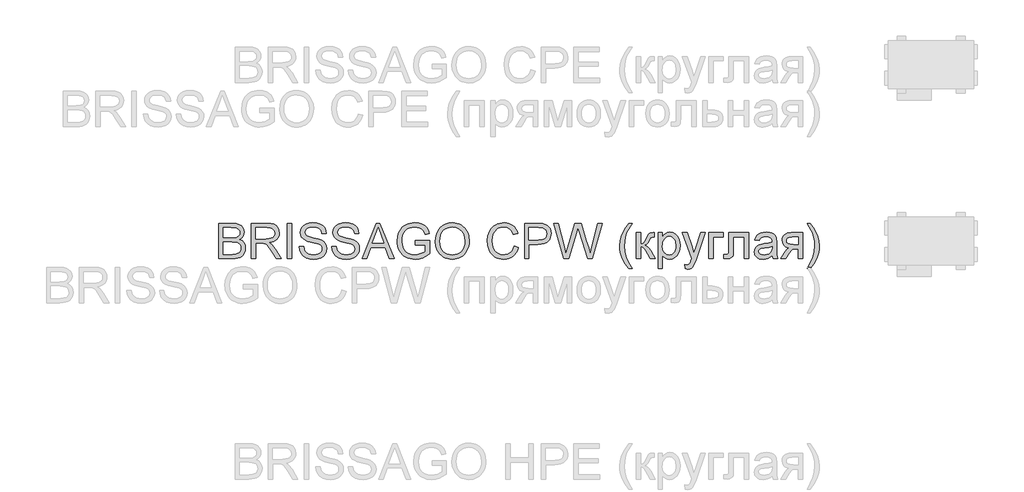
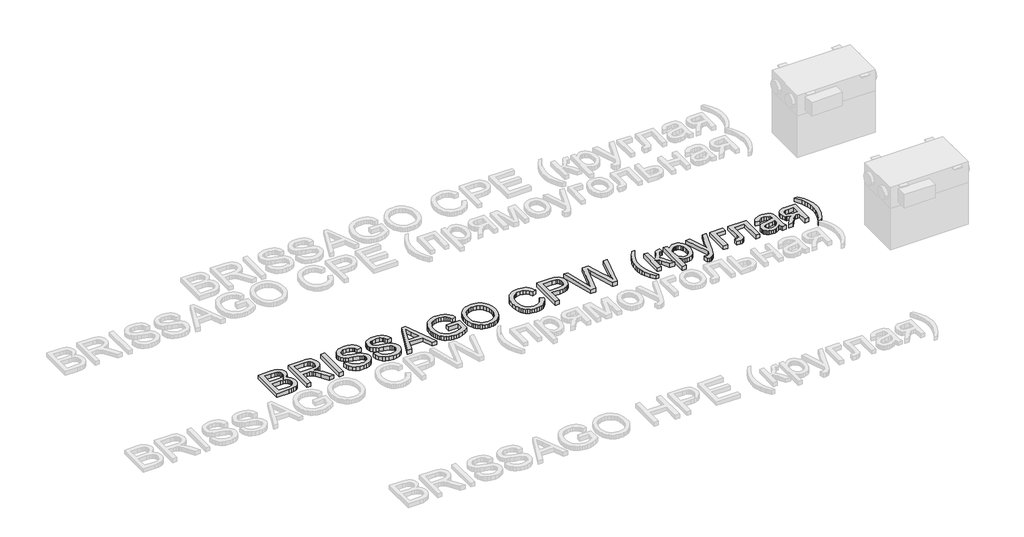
# One storey, part 19 of 28: 1 proxy.
"""IFC4 building model written with IfcOpenShell, lengths in millimetres."""

from ifc_helpers import new_model, si_unit, origin, origin_with_axes, place, context, project, spatial, polyline, outline, extrude, element, save

model = new_model("IFC4")

# Units and contexts
model_context = context("Model", 3, world=origin())
ifc_project = project(units=[si_unit("LENGTHUNIT", "METRE", prefix="MILLI")], contexts=[model_context])

# Site, building, storey
site = spatial("IfcSite", under=ifc_project)
building = spatial("IfcBuilding", under=site)
storey = spatial("IfcBuildingStorey", under=building, Name="Уровень 1", Elevation=0.0)

# Proxy
placement = place(None, origin())
element("IfcBuildingElementProxy", 1, Name="400 мм Arial", ObjectType="400 мм Arial", at=placement, inside=storey, context=model_context, shape_type="SweptSolid", body=[
    extrude(outline(polyline([(-28753.3516036, 8271.2907411), (-28753.3516036, 8673.1159817), (-28600.018388, 8673.1159817), (-28557.8468487, 8670.160663), (-28524.9214101, 8661.294707), (-28499.6847052, 8646.2973843), (-28480.5793669, 8624.9479658), (-28468.5496257, 8599.8338883), (-28464.539712, 8573.5425884), (-28467.9119636, 8549.3482158), (-28478.0287184, 8526.6008458), (-28494.963553, 8506.6984299), (-28518.7900435, 8491.0389196), (-28490.3282398, 8476.176487), (-28469.2976524, 8453.564007), (-28456.311418, 8424.6975331), (-28451.9826732, 8391.0731188), (-28454.9379919, 8363.0527735), (-28463.803948, 8337.0680419), (-28477.0354371, 8314.9705967), (-28493.0873548, 8298.6121107), (-28512.7445161, 8286.7663104), (-28536.7917358, 8278.2069227), (-28566.013829, 8273.0197865), (-28601.1956104, 8271.2907411), (-28753.3516036, 8271.2907411)]), holes=[polyline([(-28703.1234486, 8509.8744777), (-28611.3982044, 8509.8744777), (-28557.8345859, 8514.1909598), (-28539.0848669, 8521.6344389), (-28525.6081232, 8532.7812633), (-28517.4779311, 8547.4597549), (-28514.767867, 8565.4982354), (-28517.2939901, 8583.0094184), (-28524.8723592, 8598.2642585), (-28537.1596178, 8610.1713724), (-28553.8124094, 8617.6393769), (-28579.3679454, 8621.5757142), (-28618.3634369, 8622.8878267), (-28703.1234486, 8622.8878267), (-28703.1234486, 8509.8744777)]), polyline([(-28703.1234486, 8321.5188962), (-28600.1164899, 8321.5188962), (-28562.8377811, 8323.4809335), (-28531.2980313, 8334.4192915), (-28519.7220112, 8343.8493333), (-28510.402334, 8356.7374659), (-28504.2587047, 8372.5073407), (-28502.2108283, 8390.5826094), (-28504.614324, 8411.5764086), (-28511.8248111, 8429.6271519), (-28524.418638, 8443.7415577), (-28542.9721533, 8452.9263449), (-28569.2511905, 8457.9663282), (-28605.0215832, 8459.6463227), (-28703.1234486, 8459.6463227), (-28703.1234486, 8321.5188962)])]), origin_with_axes(), (0.0, 0.0, 1.0), 50.0),
    extrude(outline(polyline([(-28382.91896, 8271.2907411), (-28382.91896, 8673.1159817), (-28209.7691676, 8673.1159817), (-28163.2320952, 8670.4059177), (-28129.3746889, 8662.2757256), (-28104.6284933, 8647.2661402), (-28085.4250532, 8623.9178963), (-28073.1010064, 8594.9655832), (-28068.9929907, 8563.1437906), (-28070.694445, 8542.5056107), (-28075.7988077, 8523.559688), (-28084.3060788, 8506.3060224), (-28096.2162584, 8490.744614), (-28111.6826306, 8477.3721035), (-28130.8584796, 8466.6851315), (-28153.7438054, 8458.6836981), (-28180.3386079, 8453.3678033), (-28151.7909651, 8431.8834948), (-28111.078691, 8380.1838117), (-28044.0751169, 8271.2907411), (-28102.4457268, 8271.2907411), (-28154.7340211, 8354.5792249), (-28192.5032393, 8409.7124732), (-28206.5440687, 8425.7889164), (-28219.0397938, 8435.7585185), (-28242.9275981, 8445.3234503), (-28272.0638521, 8447.0892839), (-28332.6908049, 8447.0892839), (-28332.6908049, 8271.2907411), (-28382.91896, 8271.2907411)]), holes=[polyline([(-28332.6908049, 8497.317439), (-28220.2660672, 8497.317439), (-28187.9782907, 8499.0955353), (-28162.9255268, 8504.4298242), (-28144.0654432, 8513.675925), (-28130.3557075, 8527.189457), (-28122.0047862, 8543.5356803), (-28119.2211458, 8561.2798552), (-28124.5309093, 8585.7807961), (-28140.4601997, 8605.5237965), (-28152.6217653, 8613.1205597), (-28167.8674083, 8618.5468191), (-28207.6109265, 8622.8878267), (-28332.6908049, 8622.8878267), (-28332.6908049, 8497.317439)])]), origin_with_axes(), (0.0, 0.0, 1.0), 50.0),
    extrude(outline(polyline([(-27974.8152, 8271.2907411), (-27974.8152, 8673.1159817), (-27924.5870449, 8673.1159817), (-27924.5870449, 8271.2907411), (-27974.8152, 8271.2907411)])), origin_with_axes(), (0.0, 0.0, 1.0), 50.0),
    extrude(outline(polyline([(-27842.9662929, 8409.4181676), (-27792.7381378, 8409.4181676), (-27786.9746532, 8381.5449751), (-27776.55133, 8359.1409616), (-27760.2909459, 8341.3599985), (-27737.0162783, 8327.3559572), (-27708.5667373, 8318.2692719), (-27676.7817329, 8315.2403768), (-27648.7981758, 8317.5335079), (-27624.297235, 8324.4129012), (-27604.44387, 8335.3022083), (-27590.4030405, 8349.6250806), (-27582.0521192, 8366.0694058), (-27579.2684788, 8383.3230714), (-27581.3531434, 8400.1352786), (-27587.6071373, 8414.6666174), (-27600.3113289, 8427.0642406), (-27621.7465865, 8437.4753011), (-27694.8815271, 8456.6542158), (-27742.8901275, 8469.3461446), (-27773.6082741, 8481.4249368), (-27798.611987, 8498.3229831), (-27816.3316365, 8518.8017475), (-27826.8898497, 8542.4197716), (-27830.4092541, 8568.735597), (-27826.0559839, 8598.1538939), (-27812.996173, 8625.585628), (-27791.5731782, 8648.8357701), (-27762.1303558, 8665.7092909), (-27726.7891588, 8675.9731986), (-27687.67104, 8679.3945011), (-27645.2910342, 8675.813783), (-27608.208529, 8665.0716288), (-27577.7478998, 8647.3887675), (-27555.2335217, 8622.9859285), (-27540.9842258, 8593.3836907), (-27535.3188431, 8560.1026328), (-27585.5469981, 8560.1026328), (-27594.7685735, 8590.0727527), (-27603.1317575, 8601.9308157), (-27613.9965391, 8611.704214), (-27644.0402354, 8624.800813), (-27685.7090027, 8629.1663461), (-27728.3587887, 8624.849864), (-27744.6620924, 8619.4542614), (-27757.61767, 8611.9004177), (-27774.5402418, 8592.8441304), (-27780.1810991, 8570.207125), (-27776.183448, 8550.9055829), (-27764.190495, 8535.3809627), (-27735.8390559, 8521.4995488), (-27682.1773355, 8507.3238292), (-27626.7988325, 8493.8593482), (-27593.2970455, 8482.1116498), (-27564.6635636, 8463.8892284), (-27544.6875712, 8441.3993757), (-27532.9521356, 8414.8873466), (-27529.0403237, 8384.5983957), (-27533.5407468, 8353.6349944), (-27547.042016, 8324.5110031), (-27568.9923084, 8299.4459765), (-27598.8398009, 8280.6594693), (-27634.7328209, 8268.9240336), (-27674.8196956, 8265.0122218), (-27724.0300439, 8269.230602), (-27764.5338515, 8281.8857426), (-27796.7971025, 8303.0266946), (-27821.2857807, 8332.7025089), (-27837.0066046, 8368.8530463), (-27842.9662929, 8409.4181676)])), origin_with_axes(), (0.0, 0.0, 1.0), 50.0),
    extrude(outline(polyline([(-27472.5336492, 8409.4181676), (-27422.3054942, 8409.4181676), (-27416.5420096, 8381.5449751), (-27406.1186864, 8359.1409616), (-27389.8583022, 8341.3599985), (-27366.5836346, 8327.3559572), (-27338.1340937, 8318.2692719), (-27306.3490893, 8315.2403768), (-27278.3655322, 8317.5335079), (-27253.8645913, 8324.4129012), (-27234.0112263, 8335.3022083), (-27219.9703968, 8349.6250806), (-27211.6194755, 8366.0694058), (-27208.8358351, 8383.3230714), (-27210.9204997, 8400.1352786), (-27217.1744936, 8414.6666174), (-27229.8786852, 8427.0642406), (-27251.3139428, 8437.4753011), (-27324.4488834, 8456.6542158), (-27372.4574838, 8469.3461446), (-27403.1756304, 8481.4249368), (-27428.1793433, 8498.3229831), (-27445.8989928, 8518.8017475), (-27456.457206, 8542.4197716), (-27459.9766105, 8568.735597), (-27455.6233402, 8598.1538939), (-27442.5635294, 8625.585628), (-27421.1405345, 8648.8357701), (-27391.6977122, 8665.7092909), (-27356.3565151, 8675.9731986), (-27317.2383963, 8679.3945011), (-27274.8583905, 8675.813783), (-27237.7758854, 8665.0716288), (-27207.3152562, 8647.3887675), (-27184.8008781, 8622.9859285), (-27170.5515821, 8593.3836907), (-27164.8861994, 8560.1026328), (-27215.1143545, 8560.1026328), (-27224.3359298, 8590.0727527), (-27232.6991138, 8601.9308157), (-27243.5638954, 8611.704214), (-27273.6075917, 8624.800813), (-27315.276359, 8629.1663461), (-27357.926145, 8624.849864), (-27374.2294487, 8619.4542614), (-27387.1850263, 8611.9004177), (-27404.1075981, 8592.8441304), (-27409.7484554, 8570.207125), (-27405.7508044, 8550.9055829), (-27393.7578513, 8535.3809627), (-27365.4064122, 8521.4995488), (-27311.7446919, 8507.3238292), (-27256.3661889, 8493.8593482), (-27222.8644018, 8482.1116498), (-27194.2309199, 8463.8892284), (-27174.2549275, 8441.3993757), (-27162.5194919, 8414.8873466), (-27158.60768, 8384.5983957), (-27163.1081031, 8353.6349944), (-27176.6093723, 8324.5110031), (-27198.5596647, 8299.4459765), (-27228.4071572, 8280.6594693), (-27264.3001772, 8268.9240336), (-27304.387052, 8265.0122218), (-27353.5974002, 8269.230602), (-27394.1012079, 8281.8857426), (-27426.3644588, 8303.0266946), (-27450.853137, 8332.7025089), (-27466.5739609, 8368.8530463), (-27472.5336492, 8409.4181676)])), origin_with_axes(), (0.0, 0.0, 1.0), 50.0),
    extrude(outline(polyline([(-27130.0600372, 8271.2907411), (-26969.6634873, 8673.1159817), (-26926.891074, 8673.1159817), (-26766.4945241, 8271.2907411), (-26819.5676333, 8271.2907411), (-26865.5774081, 8396.8611288), (-27031.075255, 8396.8611288), (-27076.986928, 8271.2907411), (-27130.0600372, 8271.2907411)]), holes=[polyline([(-27012.6321043, 8447.0892839), (-26883.9224569, 8447.0892839), (-26920.1220453, 8545.8778623), (-26948.2772806, 8622.8878267), (-26973.2932563, 8554.5108265), (-27012.6321043, 8447.0892839)])]), origin_with_axes(), (0.0, 0.0, 1.0), 50.0),
    extrude(outline(polyline([(-26524.4772222, 8428.2537258), (-26524.4772222, 8478.4818808), (-26361.2357182, 8478.4818808), (-26361.2357182, 8328.2879249), (-26400.90566, 8300.6967753), (-26441.8264006, 8280.9047239), (-26483.8998381, 8268.9853473), (-26527.0278707, 8265.0122218), (-26555.8790162, 8266.5910487), (-26583.3751296, 8271.3275293), (-26609.5162111, 8279.2216638), (-26634.3022605, 8290.2734521), (-26656.9331346, 8304.3173473), (-26676.6086899, 8321.1878024), (-26693.3289266, 8340.8848176), (-26707.0938446, 8363.4083927), (-26717.8451959, 8388.0380923), (-26725.5247326, 8414.0534807), (-26730.1324545, 8441.454558), (-26731.6683619, 8470.2413241), (-26725.549258, 8526.8338377), (-26717.9003782, 8553.6493695), (-26707.1919465, 8579.4777512), (-26693.6140352, 8603.1846801), (-26677.3567167, 8623.6358534), (-26658.4199909, 8640.831271), (-26636.8038581, 8654.7709329), (-26612.9773675, 8665.543744), (-26587.4095688, 8673.2386091), (-26560.1004621, 8677.8555281), (-26531.0500472, 8679.3945011), (-26489.6755854, 8675.8260458), (-26452.470453, 8665.1206797), (-26421.1391697, 8648.0509551), (-26397.3862556, 8625.3894242), (-26379.813759, 8596.0447038), (-26367.0237283, 8558.9254104), (-26413.3278087, 8545.8778623), (-26423.6652928, 8572.3531033), (-26436.2345943, 8592.3290956), (-26452.8628605, 8607.3877319), (-26475.3772386, 8619.1109048), (-26502.2203615, 8626.6524857), (-26531.8348621, 8629.1663461), (-26566.5016088, 8626.456282), (-26596.1406348, 8618.3260899), (-26620.6415757, 8605.7935766), (-26639.8940668, 8589.876549), (-26654.6706603, 8571.3966101), (-26665.7439083, 8551.1753631), (-26677.5161322, 8513.2589921), (-26681.4402068, 8472.3014633), (-26676.7190545, 8424.2683375), (-26662.5555977, 8384.7455485), (-26639.379032, 8354.0151391), (-26607.6185531, 8332.3591523), (-26570.4502089, 8319.5200707), (-26531.0500472, 8315.2403768), (-26496.2606732, 8318.4654757), (-26462.3296905, 8328.1407721), (-26432.8623427, 8341.4703631), (-26411.4638733, 8355.6583454), (-26411.4638733, 8428.2537258), (-26524.4772222, 8428.2537258)])), origin_with_axes(), (0.0, 0.0, 1.0), 50.0),
    extrude(outline(polyline([(-26298.4505244, 8466.9058607), (-26295.1027982, 8514.0376757), (-26285.0596197, 8555.7616253), (-26268.3209889, 8592.0777096), (-26244.8869059, 8622.9859285), (-26216.1614534, 8647.664679), (-26183.5487145, 8665.292358), (-26147.0486892, 8675.8689653), (-26106.6613775, 8679.3945011), (-26079.6281823, 8677.7390321), (-26053.9561504, 8672.7726252), (-26029.6452818, 8664.4952803), (-26006.6955767, 8652.9069975), (-25985.7508285, 8638.3572646), (-25967.4548306, 8621.1955695), (-25951.807583, 8601.4219122), (-25938.8090859, 8579.0362928), (-25928.5942291, 8554.5476147), (-25921.2979029, 8528.4647812), (-25915.4608419, 8471.5166484), (-25916.9967492, 8441.8592282), (-25921.6044712, 8413.8082261), (-25929.2840079, 8387.363642), (-25940.0353592, 8362.5254759), (-25953.6040734, 8339.9497842), (-25969.7356989, 8320.2926229), (-25988.4302357, 8303.5539921), (-26009.6876836, 8289.7338918), (-26032.6711113, 8278.9181612), (-26056.5435871, 8271.1926393), (-26081.305111, 8266.5573261), (-26106.9556831, 8265.0122218), (-26134.4609936, 8266.7198074), (-26160.4702507, 8271.8425641), (-26184.9834543, 8280.3804921), (-26208.0006045, 8292.3335913), (-26228.9208273, 8307.2389434), (-26247.1432488, 8324.6336304), (-26262.667869, 8344.5176523), (-26275.4946879, 8366.891009), (-26292.7115652, 8415.512746), (-26298.4505244, 8466.9058607)]), holes=[polyline([(-26248.2223693, 8466.4153514), (-26245.7115747, 8433.1158995), (-26238.1791908, 8403.5565811), (-26225.6252177, 8377.7373964), (-26208.0496554, 8355.6583454), (-26186.6849085, 8337.9754841), (-26162.7633818, 8325.344869), (-26136.2850752, 8317.7664999), (-26107.2499887, 8315.2403768), (-26077.7182616, 8317.7910253), (-26050.9272553, 8325.4429708), (-26026.8769698, 8338.1962133), (-26005.5674053, 8356.0507528), (-25988.1206016, 8378.5957878), (-25975.6585991, 8405.4205166), (-25968.1813975, 8436.5249393), (-25965.688997, 8471.9090558), (-25969.9564281, 8516.3737263), (-25982.7587216, 8554.8051321), (-26003.7647835, 8586.2345172), (-26032.6435201, 8609.6931258), (-26067.481945, 8624.298041), (-26106.3670719, 8629.1663461), (-26134.3935486, 8626.8210983), (-26160.3966743, 8619.7853552), (-26184.376449, 8608.0591166), (-26206.3328728, 8591.6423825), (-26224.6595275, 8569.7442068), (-26237.7499951, 8541.573643), (-26245.6042757, 8507.1306912), (-26248.2223693, 8466.4153514)])]), origin_with_axes(), (0.0, 0.0, 1.0), 50.0),
    extrude(outline(polyline([(-25406.9007718, 8414.1270571), (-25356.6726167, 8401.1776109), (-25366.6115619, 8369.9413638), (-25379.8491824, 8342.6475855), (-25396.3854781, 8319.2962758), (-25416.220449, 8299.8874349), (-25438.9065054, 8284.6295292), (-25463.9960574, 8273.731025), (-25491.4891052, 8267.1919226), (-25521.3856487, 8265.0122218), (-25552.0148905, 8266.6615594), (-25579.645894, 8271.6095722), (-25604.2786592, 8279.8562603), (-25625.9131862, 8291.4016235), (-25644.8468463, 8306.0739838), (-25661.3770106, 8323.7016627), (-25675.5036792, 8344.2846604), (-25687.2268521, 8367.8229767), (-25703.0089897, 8419.694338), (-25708.2697022, 8475.2445193), (-25702.3222766, 8533.8358584), (-25694.8879946, 8560.1332897), (-25684.4799999, 8584.4318954), (-25671.3312842, 8606.3300712), (-25655.6748396, 8625.4262124), (-25637.5106661, 8641.7203191), (-25616.8387637, 8655.2123913), (-25594.3611738, 8665.7920644), (-25570.7799379, 8673.3489737), (-25520.3065282, 8679.3945011), (-25491.57801, 8677.4385952), (-25465.2345935, 8671.5708774), (-25441.2762785, 8661.7913477), (-25419.7030652, 8648.1000061), (-25400.8705727, 8630.8586032), (-25385.1344204, 8610.4288898), (-25372.4946082, 8586.8108657), (-25362.9511361, 8560.004531), (-25413.1792912, 8548.0361034), (-25430.5923723, 8584.6648874), (-25454.3820746, 8609.7912276), (-25484.8427038, 8624.3225664), (-25522.2685655, 8629.1663461), (-25565.4088608, 8623.7952689), (-25584.0911348, 8617.0814225), (-25600.8481596, 8607.6820375), (-25627.7403335, 8582.5189091), (-25645.2392537, 8549.9981407), (-25654.8409738, 8513.2344666), (-25658.0415471, 8475.3426211), (-25654.2523626, 8428.9404388), (-25642.8848089, 8388.8167759), (-25623.5096905, 8356.504474), (-25595.6978117, 8333.5363747), (-25562.3554402, 8319.8143763), (-25526.3888438, 8315.2403768), (-25504.5519817, 8316.7977439), (-25484.4625591, 8321.4698453), (-25466.1205759, 8329.2566808), (-25449.5260323, 8340.1582506), (-25435.0713356, 8354.1255037), (-25423.1488932, 8371.1093892), (-25413.7587053, 8391.109907), (-25406.9007718, 8414.1270571)])), origin_with_axes(), (0.0, 0.0, 1.0), 50.0),
    extrude(outline(polyline([(-25287.6089035, 8271.2907411), (-25287.6089035, 8673.1159817), (-25138.6902718, 8673.1159817), (-25078.6519302, 8669.290009), (-25051.8823837, 8662.1408356), (-25029.8462522, 8650.5035018), (-25012.1020773, 8633.8507101), (-24998.2084006, 8611.6551631), (-24989.2320799, 8585.4742278), (-24986.239973, 8556.8652713), (-24988.2602583, 8532.1987835), (-24994.3211142, 8509.5065958), (-25004.4225406, 8488.7887081), (-25018.5645377, 8470.0451204), (-25037.97951, 8454.5082375), (-25063.8998622, 8443.410464), (-25096.3255944, 8436.7517998), (-25135.2567065, 8434.5322451), (-25237.3807484, 8434.5322451), (-25237.3807484, 8271.2907411), (-25287.6089035, 8271.2907411)]), holes=[polyline([(-25237.3807484, 8484.7604002), (-25132.3136506, 8484.7604002), (-25087.7754037, 8489.3711879), (-25071.171663, 8495.1346725), (-25058.3448441, 8503.2035509), (-25048.7737808, 8513.3632253), (-25041.9373071, 8525.3990979), (-25036.4681281, 8555.0994377), (-25039.6932269, 8577.6628667), (-25049.3685234, 8596.6946286), (-25064.2922697, 8611.017501), (-25083.2627179, 8619.4542614), (-25133.490873, 8622.8878267), (-25237.3807484, 8622.8878267), (-25237.3807484, 8484.7604002)])]), origin_with_axes(), (0.0, 0.0, 1.0), 50.0),
    extrude(outline(polyline([(-24845.2675925, 8271.2907411), (-24954.8473761, 8673.1159817), (-24903.0495912, 8673.1159817), (-24839.4795824, 8409.0257601), (-24819.8592093, 8327.50311), (-24798.8654101, 8399.6079811), (-24719.2066955, 8673.1159817), (-24644.5511759, 8673.1159817), (-24586.6710753, 8474.8521118), (-24561.8758289, 8401.2757128), (-24543.6043564, 8327.50311), (-24524.5725945, 8406.6713154), (-24460.4139746, 8673.1159817), (-24408.6161897, 8673.1159817), (-24518.2940752, 8271.2907411), (-24571.9557955, 8271.2907411), (-24668.2918273, 8581.2926357), (-24681.7317829, 8624.5555584), (-24696.8394702, 8572.4634679), (-24784.6406397, 8271.2907411), (-24845.2675925, 8271.2907411)])), origin_with_axes(), (0.0, 0.0, 1.0), 50.0),
    extrude(outline(polyline([(-24107.2472592, 8158.2773922), (-24146.1691743, 8212.8956058), (-24178.5673153, 8276.0977325), (-24191.3144265, 8310.1513426), (-24200.4195059, 8344.8180892), (-24205.8825535, 8380.0979726), (-24207.7035694, 8415.9909926), (-24202.2589158, 8478.4083044), (-24185.9249552, 8538.127815), (-24153.5022887, 8605.7690512), (-24107.2472592, 8673.1159817), (-24069.5761429, 8673.1159817), (-24116.5669364, 8593.5553689), (-24132.6065914, 8555.7861507), (-24144.8202737, 8516.4473027), (-24154.3116291, 8466.1946222), (-24157.4754143, 8415.696687), (-24151.9817098, 8351.3050751), (-24135.5005964, 8286.9379887), (-24108.0320741, 8222.5954277), (-24069.5761429, 8158.2773922), (-24107.2472592, 8158.2773922)])), origin_with_axes(), (0.0, 0.0, 1.0), 50.0),
    extrude(outline(polyline([(-24019.3479878, 8566.3811522), (-23969.1198328, 8566.3811522), (-23969.1198328, 8440.8107645), (-23948.6901193, 8443.0671074), (-23935.4708929, 8449.8361361), (-23923.7722455, 8467.4944719), (-23907.9042688, 8502.418736), (-23884.9974832, 8547.7908487), (-23875.5551787, 8556.9511104), (-23864.7884989, 8562.5551795), (-23828.0493503, 8566.3811522), (-23818.4353675, 8566.3811522), (-23818.4353675, 8515.8586915), (-23831.973425, 8516.1529971), (-23847.6697234, 8514.8286219), (-23856.4988913, 8510.8554964), (-23873.7648196, 8477.7951678), (-23884.3720838, 8455.7590363), (-23894.0228548, 8442.0370378), (-23905.7092395, 8432.8767762), (-23922.4233448, 8424.5258549), (-23906.5063172, 8417.4563892), (-23890.7364423, 8404.9790582), (-23875.1137203, 8387.0938619), (-23859.638151, 8363.8008002), (-23805.8783288, 8271.2907411), (-23862.9736144, 8271.2907411), (-23915.6543161, 8361.8387629), (-23929.8790866, 8385.9350336), (-23942.1418198, 8400.1475413), (-23954.5271803, 8407.100511), (-23969.1198328, 8409.4181676), (-23969.1198328, 8271.2907411), (-24019.3479878, 8271.2907411), (-24019.3479878, 8566.3811522)])), origin_with_axes(), (0.0, 0.0, 1.0), 50.0),
    extrude(outline(polyline([(-23774.4857318, 8158.2773922), (-23774.4857318, 8566.3811522), (-23724.2575768, 8566.3811522), (-23724.2575768, 8517.1340158), (-23707.8745653, 8541.4264902), (-23689.5295164, 8558.7782576), (-23668.1433098, 8569.1893181), (-23642.6368248, 8572.6596716), (-23608.6690539, 8567.8036293), (-23578.9687141, 8553.2355022), (-23554.7866043, 8529.8382074), (-23537.3735232, 8498.4946614), (-23526.8520982, 8461.4857326), (-23523.3449565, 8421.0922896), (-23527.3058193, 8378.1359353), (-23539.1884077, 8339.7167922), (-23558.6125771, 8307.7846351), (-23585.1981826, 8284.2892383), (-23616.1615839, 8269.8314759), (-23648.7191404, 8265.0122218), (-23671.809867, 8268.2373206), (-23692.4235215, 8277.9126171), (-23710.0695945, 8292.5175323), (-23724.2575768, 8310.5314873), (-23724.2575768, 8158.2773922), (-23774.4857318, 8158.2773922)]), holes=[polyline([(-23724.2575768, 8416.4815019), (-23718.825186, 8371.4527457), (-23712.0346975, 8354.0151391), (-23702.5280136, 8339.9620469), (-23678.4807938, 8321.4207944), (-23664.7189415, 8316.7854812), (-23649.7982609, 8315.2403768), (-23634.6629825, 8316.8406635), (-23620.6497442, 8321.6415235), (-23607.7585459, 8329.6429569), (-23595.9893878, 8340.8449637), (-23586.1822669, 8355.4069593), (-23579.1771806, 8373.4883594), (-23574.9741288, 8395.0891639), (-23573.5731115, 8420.2093728), (-23579.0422905, 8464.9928743), (-23585.8787643, 8482.565371), (-23595.4498275, 8496.9250315), (-23619.4602591, 8516.0548953), (-23633.0657615, 8520.8373612), (-23647.7381218, 8522.4315165), (-23662.3644968, 8520.7361937), (-23676.1263491, 8515.6502251), (-23701.0564856, 8495.3063507), (-23711.206963, 8480.2078605), (-23718.457304, 8462.0375556), (-23722.8075086, 8440.7954361), (-23724.2575768, 8416.4815019)])]), origin_with_axes(), (0.0, 0.0, 1.0), 50.0),
    extrude(outline(polyline([(-23466.838282, 8158.2773922), (-23473.1168014, 8206.6416119), (-23447.6103164, 8202.2270279), (-23434.1948863, 8203.6127168), (-23423.7715631, 8207.7697833), (-23409.1543852, 8223.2208271), (-23395.420124, 8260.2052304), (-23391.4960494, 8272.3698617), (-23498.2308789, 8566.3811522), (-23445.2558716, 8566.3811522), (-23388.6510953, 8402.551037), (-23368.9326204, 8337.0189909), (-23349.2141454, 8394.8990915), (-23291.0397392, 8566.3811522), (-23238.4571394, 8566.3811522), (-23341.1697925, 8264.2274068), (-23367.8534998, 8198.6953608), (-23381.5141846, 8177.775138), (-23396.9897539, 8163.2805874), (-23414.9669207, 8154.8193015), (-23436.1323981, 8151.9988728), (-23466.838282, 8158.2773922)])), origin_with_axes(), (0.0, 0.0, 1.0), 50.0),
    extrude(outline(polyline([(-23196.8619485, 8566.3811522), (-23033.6204445, 8566.3811522), (-23033.6204445, 8516.1529971), (-23146.6337934, 8516.1529971), (-23146.6337934, 8271.2907411), (-23196.8619485, 8271.2907411), (-23196.8619485, 8566.3811522)])), origin_with_axes(), (0.0, 0.0, 1.0), 50.0),
    extrude(outline(polyline([(-22970.8352506, 8566.3811522), (-22744.8085528, 8566.3811522), (-22744.8085528, 8271.5850467), (-22795.0367079, 8271.5850467), (-22795.0367079, 8516.1529971), (-22920.6070956, 8516.1529971), (-22920.6070956, 8375.3768203), (-22923.9916099, 8310.4333854), (-22930.331443, 8295.7303684), (-22942.5819134, 8283.0139141), (-22961.1722169, 8274.2215344), (-22986.5315491, 8271.2907411), (-23027.3419251, 8273.8413896), (-23027.3419251, 8321.5188962), (-23004.8765979, 8321.5188962), (-22982.1660161, 8324.609105), (-22973.0915936, 8334.4192915), (-22970.8352506, 8378.2217744), (-22970.8352506, 8566.3811522)])), origin_with_axes(), (0.0, 0.0, 1.0), 50.0),
    extrude(outline(polyline([(-22481.1107387, 8308.9618574), (-22505.1089075, 8288.3849912), (-22529.8183148, 8274.9205102), (-22555.8030464, 8267.4892939), (-22583.627188, 8265.0122218), (-22605.9913476, 8266.5021438), (-22625.6025236, 8270.9719101), (-22642.4607161, 8278.4215205), (-22656.5659249, 8288.850975), (-22667.7035523, 8301.5980862), (-22675.6590005, 8316.0006663), (-22680.4322693, 8332.0587154), (-22682.023359, 8349.7722334), (-22679.6198633, 8370.5943544), (-22672.4093762, 8389.5034889), (-22661.2870772, 8405.6902967), (-22647.1481458, 8418.3454373), (-22630.5321424, 8427.9103692), (-22611.9786271, 8434.8265507), (-22568.5195007, 8442.3803944), (-22517.1631742, 8450.3266455), (-22481.4050443, 8459.6463227), (-22481.1107387, 8470.8299353), (-22484.5688294, 8493.2462116), (-22494.9431017, 8507.9124404), (-22518.1441928, 8518.8017475), (-22550.4687575, 8522.4315165), (-22580.3898264, 8520.0157581), (-22601.2855238, 8512.7684828), (-22615.5348197, 8499.3653154), (-22625.5166845, 8478.4818808), (-22675.7448396, 8484.7604002), (-22667.0260363, 8512.2289225), (-22654.0152764, 8533.8113329), (-22635.4985493, 8550.3169718), (-22610.2618444, 8562.5551795), (-22579.396545, 8570.1335486), (-22543.9940344, 8572.6596716), (-22510.0385262, 8570.4278542), (-22483.1218269, 8563.7324018), (-22462.8270035, 8553.6646979), (-22448.7371231, 8541.3161256), (-22439.3929204, 8526.0490228), (-22433.3351302, 8507.2257274), (-22430.8825836, 8463.2760917), (-22430.8825836, 8400.7852034), (-22428.3319351, 8313.5235942), (-22418.3255448, 8271.2907411), (-22468.5536999, 8271.2907411), (-22476.5980529, 8288.7528732), (-22481.1107387, 8308.9618574)]), holes=[polyline([(-22481.1107387, 8409.4181676), (-22514.8577804, 8401.0549836), (-22562.1428795, 8394.0161747), (-22605.3567512, 8385.8737199), (-22616.6016775, 8380.306439), (-22624.9280733, 8372.6299681), (-22630.0784212, 8363.4329182), (-22631.7952039, 8353.3039006), (-22628.0550703, 8338.3678916), (-22616.8346694, 8326.1296839), (-22598.379256, 8317.9627036), (-22572.9340847, 8315.2403768), (-22545.9560717, 8318.2447465), (-22522.1173184, 8327.2578553), (-22502.7912509, 8340.5383954), (-22489.3512954, 8356.3450584), (-22483.391607, 8372.6299681), (-22481.4050443, 8395.1933971), (-22481.1107387, 8409.4181676)])]), origin_with_axes(), (0.0, 0.0, 1.0), 50.0),
    extrude(outline(polyline([(-22135.7921725, 8566.3811522), (-22135.7921725, 8271.2907411), (-22186.0203276, 8271.2907411), (-22186.0203276, 8384.3040901), (-22213.390748, 8384.3040901), (-22235.2184131, 8382.7099347), (-22250.6694569, 8377.9274688), (-22265.556415, 8364.0215294), (-22285.6918228, 8335.0569536), (-22325.7173839, 8271.2907411), (-22383.7936882, 8271.2907411), (-22333.3693294, 8351.9304745), (-22311.100206, 8380.8705248), (-22290.5969161, 8393.7218691), (-22324.932569, 8404.2432942), (-22338.2744227, 8413.054068), (-22349.0656279, 8424.2315493), (-22363.3394493, 8450.8171548), (-22368.0973897, 8481.1306312), (-22366.4725776, 8499.2181626), (-22361.5981412, 8515.515335), (-22353.4740804, 8530.0221484), (-22342.1003954, 8542.7386027), (-22327.6487644, 8553.0822181), (-22310.2908656, 8560.4705148), (-22290.026699, 8564.9034929), (-22266.8562647, 8566.3811522), (-22135.7921725, 8566.3811522)]), holes=[polyline([(-22186.0203276, 8516.1529971), (-22252.2390867, 8516.1529971), (-22286.4398496, 8513.2467294), (-22305.8517562, 8504.5279261), (-22314.864865, 8491.9095736), (-22317.8692347, 8477.3046584), (-22313.442388, 8458.162532), (-22300.161848, 8444.8819919), (-22275.6241189, 8437.1196818), (-22237.4257051, 8434.5322451), (-22186.0203276, 8434.5322451), (-22186.0203276, 8516.1529971)])]), origin_with_axes(), (0.0, 0.0, 1.0), 50.0),
    extrude(outline(polyline([(-22047.8929011, 8158.2773922), (-22085.5640175, 8158.2773922), (-22047.1080862, 8222.5954277), (-22019.6395639, 8286.9379887), (-22003.1584505, 8351.3050751), (-21997.6647461, 8415.696687), (-22000.8285312, 8465.8267402), (-22010.3198867, 8515.5643859), (-22022.3128397, 8554.9768104), (-22038.2789183, 8592.770554), (-22085.5640175, 8673.1159817), (-22047.8929011, 8673.1159817), (-22001.6378716, 8605.7690512), (-21969.2152051, 8538.127815), (-21952.8812445, 8478.4083044), (-21947.436591, 8415.9909926), (-21949.2668039, 8380.0979726), (-21954.7574427, 8344.8180892), (-21963.9085073, 8310.1513426), (-21976.7199978, 8276.0977325), (-22009.1549271, 8212.8956058), (-22047.8929011, 8158.2773922)])), origin_with_axes(), (0.0, 0.0, 1.0), 50.0),
])

save(model, "model.ifc")
